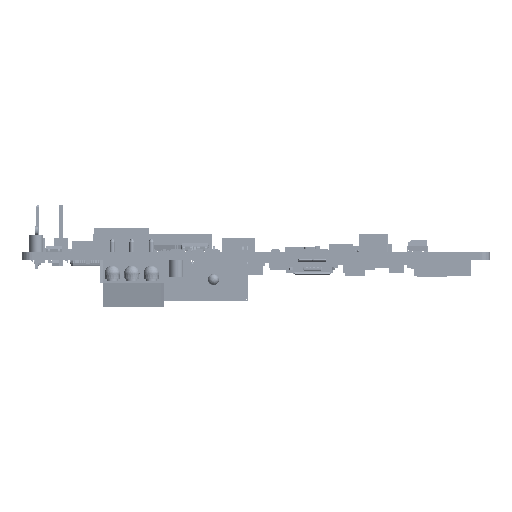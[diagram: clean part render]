
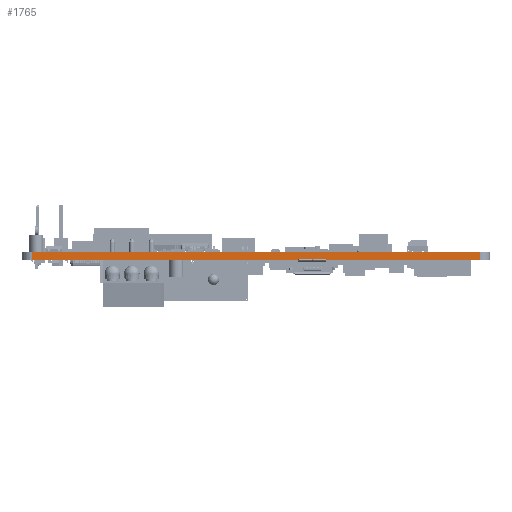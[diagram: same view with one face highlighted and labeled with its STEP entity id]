
A CAD part, front view. The second image highlights one B-rep face of the part: STEP entity #1765.
In plain terms, the highlighted planar face has unit normal (0, -1, 0).
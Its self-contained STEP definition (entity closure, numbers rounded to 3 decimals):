
#1738 = VERTEX_POINT('',#1739);
#1739 = CARTESIAN_POINT('',(79.432,-6.179,0.));
#1746 = EDGE_CURVE('',#1747,#1738,#1749,.T.);
#1747 = VERTEX_POINT('',#1748);
#1748 = CARTESIAN_POINT('',(79.432,-6.179,-1.451));
#1749 = LINE('',#1750,#1751);
#1750 = CARTESIAN_POINT('',(79.432,-6.179,-1.451));
#1751 = VECTOR('',#1752,1.);
#1752 = DIRECTION('',(0.,0.,1.));
#1765 = ADVANCED_FACE('',(#1766),#1791,.T.);
#1766 = FACE_BOUND('',#1767,.T.);
#1767 = EDGE_LOOP('',(#1768,#1769,#1777,#1785));
#1768 = ORIENTED_EDGE('',*,*,#1746,.T.);
#1769 = ORIENTED_EDGE('',*,*,#1770,.T.);
#1770 = EDGE_CURVE('',#1738,#1771,#1773,.T.);
#1771 = VERTEX_POINT('',#1772);
#1772 = CARTESIAN_POINT('',(-0.832,-6.179,0.));
#1773 = LINE('',#1774,#1775);
#1774 = CARTESIAN_POINT('',(79.432,-6.179,0.));
#1775 = VECTOR('',#1776,1.);
#1776 = DIRECTION('',(-1.,0.,0.));
#1777 = ORIENTED_EDGE('',*,*,#1778,.F.);
#1778 = EDGE_CURVE('',#1779,#1771,#1781,.T.);
#1779 = VERTEX_POINT('',#1780);
#1780 = CARTESIAN_POINT('',(-0.832,-6.179,-1.451));
#1781 = LINE('',#1782,#1783);
#1782 = CARTESIAN_POINT('',(-0.832,-6.179,-1.451));
#1783 = VECTOR('',#1784,1.);
#1784 = DIRECTION('',(0.,0.,1.));
#1785 = ORIENTED_EDGE('',*,*,#1786,.F.);
#1786 = EDGE_CURVE('',#1747,#1779,#1787,.T.);
#1787 = LINE('',#1788,#1789);
#1788 = CARTESIAN_POINT('',(79.432,-6.179,-1.451));
#1789 = VECTOR('',#1790,1.);
#1790 = DIRECTION('',(-1.,0.,0.));
#1791 = PLANE('',#1792);
#1792 = AXIS2_PLACEMENT_3D('',#1793,#1794,#1795);
#1793 = CARTESIAN_POINT('',(79.432,-6.179,-1.451));
#1794 = DIRECTION('',(0.,-1.,0.));
#1795 = DIRECTION('',(-1.,0.,0.));
